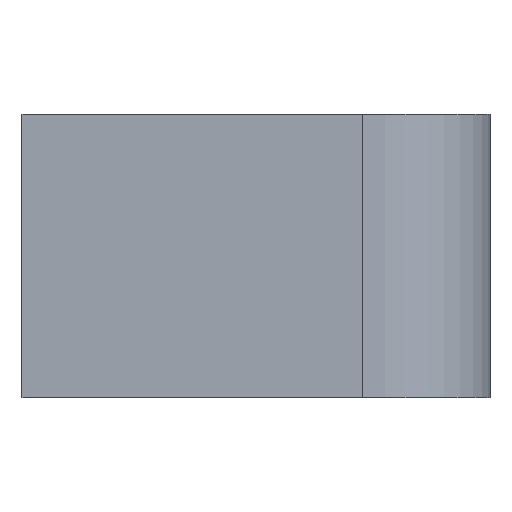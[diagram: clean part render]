
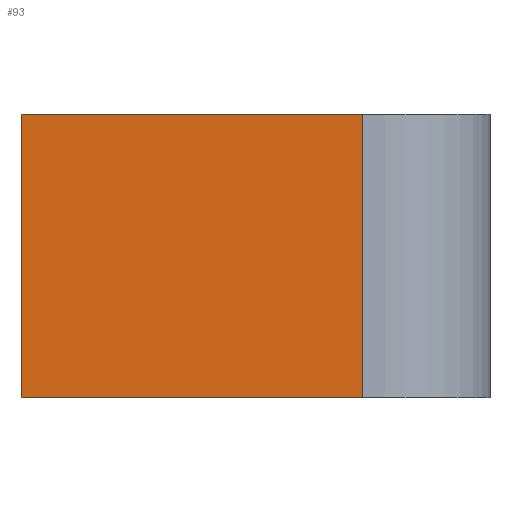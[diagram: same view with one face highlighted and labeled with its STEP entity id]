
A CAD part, left-side view. The second image highlights one B-rep face of the part: STEP entity #93.
In plain terms, the highlighted planar face has unit normal (-1, 0, 0).
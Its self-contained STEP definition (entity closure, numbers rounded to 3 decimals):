
#19 = ORIENTED_EDGE ( 'NONE', *, *, #150, .F. ) ;
#39 = VERTEX_POINT ( 'NONE', #422 ) ;
#57 = ORIENTED_EDGE ( 'NONE', *, *, #356, .T. ) ;
#93 = ADVANCED_FACE ( 'NONE', ( #183 ), #363, .F. ) ;
#107 = CARTESIAN_POINT ( 'NONE',  ( -3., 6., 20. ) ) ;
#119 = VECTOR ( 'NONE', #157, 1000. ) ;
#137 = VERTEX_POINT ( 'NONE', #455 ) ;
#147 = DIRECTION ( 'NONE',  ( 0., 0., -1. ) ) ;
#150 = EDGE_CURVE ( 'NONE', #219, #39, #501, .T. ) ;
#157 = DIRECTION ( 'NONE',  ( 0., -1., 0. ) ) ;
#178 = DIRECTION ( 'NONE',  ( 0., 0., -1. ) ) ;
#183 = FACE_OUTER_BOUND ( 'NONE', #359, .T. ) ;
#213 = CARTESIAN_POINT ( 'NONE',  ( -3., 6., 20. ) ) ;
#219 = VERTEX_POINT ( 'NONE', #107 ) ;
#220 = AXIS2_PLACEMENT_3D ( 'NONE', #213, #291, #178 ) ;
#233 = VERTEX_POINT ( 'NONE', #329 ) ;
#240 = DIRECTION ( 'NONE',  ( 0., 0., -1. ) ) ;
#242 = VECTOR ( 'NONE', #240, 1000. ) ;
#265 = LINE ( 'NONE', #312, #374 ) ;
#291 = DIRECTION ( 'NONE',  ( 1., 0., 0. ) ) ;
#312 = CARTESIAN_POINT ( 'NONE',  ( -3., 6., 0. ) ) ;
#329 = CARTESIAN_POINT ( 'NONE',  ( -3., 30., 20. ) ) ;
#356 = EDGE_CURVE ( 'NONE', #137, #39, #265, .T. ) ;
#358 = CARTESIAN_POINT ( 'NONE',  ( -3., 30., 20. ) ) ;
#359 = EDGE_LOOP ( 'NONE', ( #57, #19, #376, #361 ) ) ;
#360 = EDGE_CURVE ( 'NONE', #233, #219, #509, .T. ) ;
#361 = ORIENTED_EDGE ( 'NONE', *, *, #489, .T. ) ;
#363 = PLANE ( 'NONE',  #220 ) ;
#374 = VECTOR ( 'NONE', #425, 1000. ) ;
#376 = ORIENTED_EDGE ( 'NONE', *, *, #360, .F. ) ;
#422 = CARTESIAN_POINT ( 'NONE',  ( -3., 6., 0. ) ) ;
#425 = DIRECTION ( 'NONE',  ( 0., -1., 0. ) ) ;
#440 = VECTOR ( 'NONE', #147, 1000. ) ;
#455 = CARTESIAN_POINT ( 'NONE',  ( -3., 30., 0. ) ) ;
#460 = CARTESIAN_POINT ( 'NONE',  ( -3., 6., 20. ) ) ;
#469 = CARTESIAN_POINT ( 'NONE',  ( -3., 6., 20. ) ) ;
#481 = LINE ( 'NONE', #358, #242 ) ;
#489 = EDGE_CURVE ( 'NONE', #233, #137, #481, .T. ) ;
#501 = LINE ( 'NONE', #460, #440 ) ;
#509 = LINE ( 'NONE', #469, #119 ) ;
